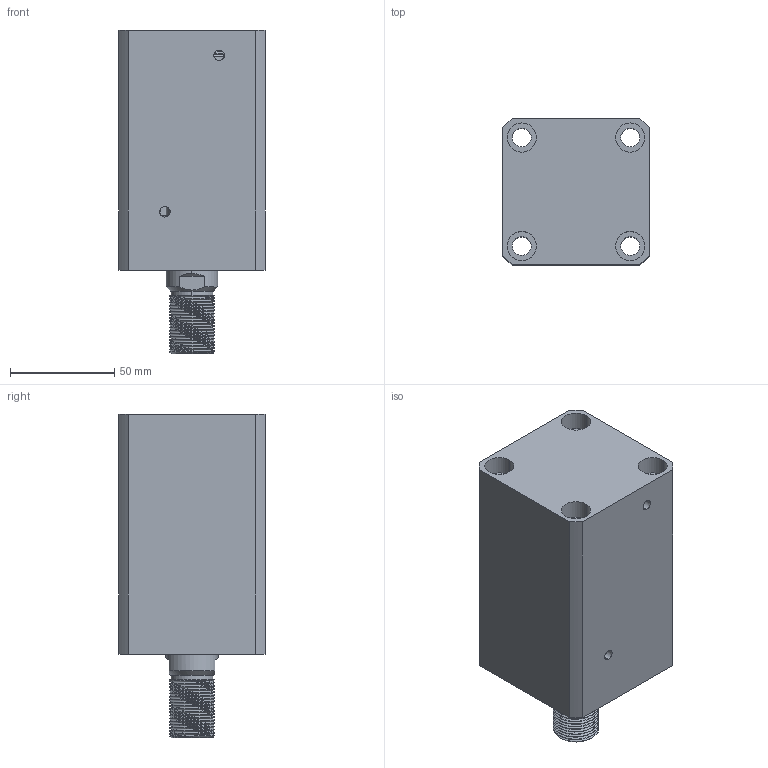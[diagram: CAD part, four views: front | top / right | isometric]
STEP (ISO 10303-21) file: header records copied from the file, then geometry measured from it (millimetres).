
FILE_DESCRIPTION (( 'STEP AP214' ), '1' );
FILE_NAME ('chtb-sdma40x60w_asm.STEP', '2018-06-06T01:39:38', ( 'Windows' ), ( 'Microsoft' ), 'SwSTEP 2.0', 'SolidWorks 2015', '' );
FILE_SCHEMA (( 'AUTOMOTIVE_DESIGN' ));
Length unit declared in the file: millimetre
Products named in the file (4): CHTB-SD40QG; CHTB-SD40X60WHSG; CHTB-SDMA40X60NBT; chtb-sdma40x60w_asm
Assembly tree (3 placements, depth 2):
  chtb-sdma40x60w_asm
    CHTB-SDMA40X60NBT
    CHTB-SD40X60WHSG
    CHTB-SD40QG
Bounding box: 70 x 70 x 155 mm (x, y, z)
Volume: 486437.5 mm3; surface area: 98142.6 mm2
Topology: 3 solids, 4 shells, 203 faces, 545 edges, 363 vertices
Faces by surface type: cylinder 122, plane 40, bspline 16, torus 14, cone 11
Entity records: 13587 total; most frequent: CARTESIAN_POINT 8658, ORIENTED_EDGE 1078, DIRECTION 914, EDGE_CURVE 539, AXIS2_PLACEMENT_3D 378, VERTEX_POINT 363, EDGE_LOOP 240, FACE_OUTER_BOUND 203
